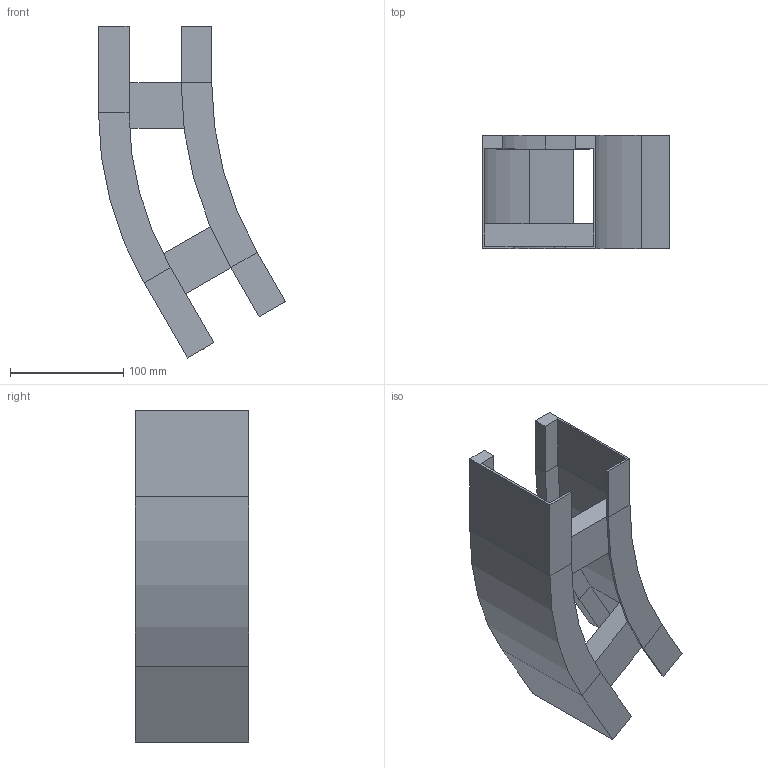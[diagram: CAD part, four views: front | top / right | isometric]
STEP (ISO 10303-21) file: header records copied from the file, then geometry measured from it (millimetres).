
FILE_DESCRIPTION (( 'STEP AP214' ), '1' );
FILE_NAME ('B2_12B3D100.step', '2025-02-21T15:07:36', ( '' ), ( '' ), 'SwSTEP 2.0', 'SolidWorks 2023', '' );
FILE_SCHEMA (( 'AUTOMOTIVE_DESIGN' ));
Length unit declared in the file: millimetre
Products named in the file (4): B2_LONGH.ESTERNO 30°_H100_R300+100; TRAVERSINO_100; B2_LONGH.INTERNO 30°_H100_R300; B2_12B3D100
Assembly tree (4 placements, depth 2):
  B2_12B3D100
    B2_LONGH.INTERNO 30°_H100_R300
    B2_LONGH.ESTERNO 30°_H100_R300+100
    TRAVERSINO_100  x2
Bounding box: 165.19 x 100 x 293.3 mm (x, y, z)
Volume: 406465.1 mm3; surface area: 190616.2 mm2
Topology: 4 solids, 4 shells, 64 faces, 136 edges, 80 vertices
Faces by surface type: plane 56, cylinder 8
Entity records: 1637 total; most frequent: DIRECTION 270, CARTESIAN_POINT 261, ORIENTED_EDGE 248, EDGE_CURVE 124, VECTOR 108, LINE 108, AXIS2_PLACEMENT_3D 81, VERTEX_POINT 72
